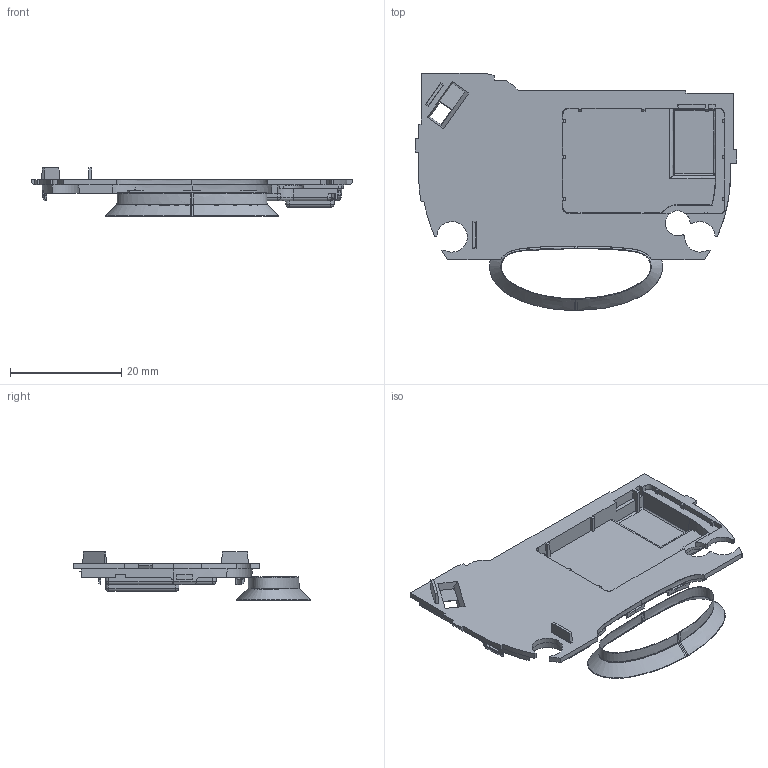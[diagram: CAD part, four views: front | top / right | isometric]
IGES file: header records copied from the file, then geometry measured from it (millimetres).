
Start section:  PTC IGES file: gtc02-msh02_prt.igs
Global section: file name: gtc02-msh02_prt.igs; native system: Pro/ENGINEER by Parametric Technology Corporation; preprocessor: 2006170; author: GRA; organization: Unknown; date: 20080630.105153; units: millimetre
Bounding box: 57.88 x 42.72 x 8.66 mm (x, y, z)
Surface area: 8462.6 mm2 (no closed solid volume)
Topology: 0 solids, 0 shells, 372 faces, 2248 edges, 2292 vertices
Faces by surface type: bspline 277, revolution 95
